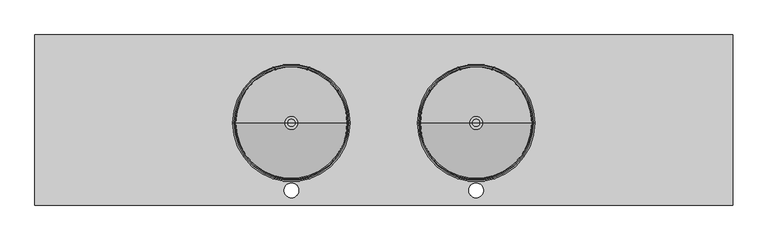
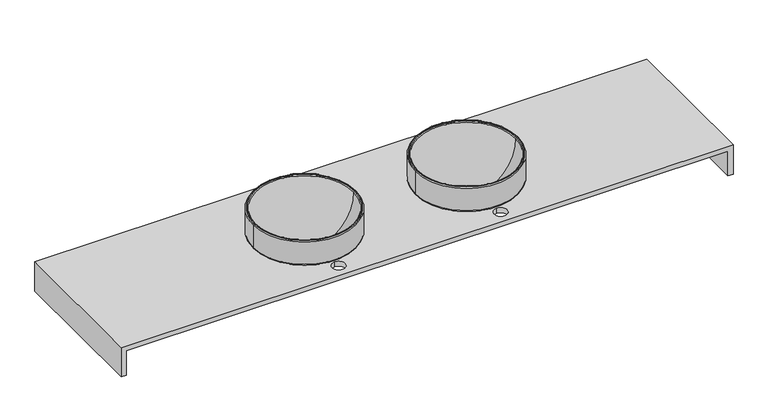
"""IFC4 building model written with IfcOpenShell, lengths in millimetres: flow terminal geometry, CUBIERTA BAÑO : CUBIERTA BAÑO 238CM."""

from ifc_helpers import new_model, si_unit, point, frame, origin, place, context, project, spatial, polyline, circle_curve, ellipse_curve, trimmed, source, transform, mapped, element, save
from ifc_brep_helpers import plane_surface, cylinder_surface, revolved_surface, advanced_brep


def flow_terminal_6d8cc725(model_context):
    return source(origin(), model_context, "Body", "AdvancedBrep", [
        advanced_brep(
        [(559.7003264, 280.0, 755.0254698), (554.6748566, 280.0, 750.0), (164.7257963, 280.0, 750.0), (159.7003264, 280.0, 755.0254698), (559.7003264, 280.0, 847.1369003), (159.7003264, 280.0, 847.1369003), (556.5666099, 280.0, 850.2706168), (162.834043, 280.0, 850.2706168), (552.8264261, 280.0, 850.2706168), (166.5742268, 280.0, 850.2706168), (549.9406449, 280.0, 847.3848356), (169.460008, 280.0, 847.3848356), (376.6370457, 280.0, 659.6971154), (342.7636072, 280.0, 659.6971154), (376.6370457, 280.0, 649.6794237), (342.7636072, 280.0, 649.6794237), (549.6748566, 280.0, 781.4886928), (169.7257963, 280.0, 781.4886928), (549.6748566, 280.0, 750.0), (169.7257963, 280.0, 750.0)],
        [
            (0, 1, circle_curve(frame((554.6748566, 280.0, 755.0254698), z_axis=(0.0, 1.0, 0.0), x_axis=(1.0, 0.0, 0.0)), 5.0254698)),
            (1, 2, circle_curve(frame((359.7003264, 280.0, 750.0), z_axis=(0.0, 0.0, 1.0), x_axis=(-1.0, 0.0, 0.0)), 194.9745302)),
            (2, 3, circle_curve(frame((164.7257963, 280.0, 755.0254698), z_axis=(0.0, 1.0, 0.0), x_axis=(-1.0, 0.0, 0.0)), 5.0254698)),
            (3, 0, circle_curve(frame((359.7003264, 280.0, 755.0254698), z_axis=(0.0, 0.0, -1.0), x_axis=(-1.0, 0.0, 0.0)), 200.0)),
            (2, 1, circle_curve(frame((359.7003264, 280.0, 750.0), z_axis=(0.0, 0.0, 1.0), x_axis=(-1.0, 0.0, 0.0)), 194.9745302)),
            (0, 3, circle_curve(frame((359.7003264, 280.0, 755.0254698), z_axis=(0.0, 0.0, -1.0), x_axis=(-1.0, 0.0, 0.0)), 200.0)),
            (4, 0),
            (3, 5),
            (5, 4, circle_curve(frame((359.7003264, 280.0, 847.1369003), z_axis=(0.0, 0.0, -1.0), x_axis=(-1.0, 0.0, 0.0)), 200.0)),
            (4, 5, circle_curve(frame((359.7003264, 280.0, 847.1369003), z_axis=(0.0, 0.0, -1.0), x_axis=(-1.0, 0.0, 0.0)), 200.0)),
            (6, 4, circle_curve(frame((556.5666099, 280.0, 847.1369003), z_axis=(0.0, 1.0, 0.0), x_axis=(1.0, 0.0, 0.0)), 3.1337165)),
            (5, 7, circle_curve(frame((162.834043, 280.0, 847.1369003), z_axis=(0.0, 1.0, 0.0), x_axis=(-1.0, 0.0, 0.0)), 3.1337165)),
            (7, 6, circle_curve(frame((359.7003264, 280.0, 850.2706168), z_axis=(0.0, 0.0, -1.0), x_axis=(-1.0, 0.0, 0.0)), 196.8662835)),
            (6, 7, circle_curve(frame((359.7003264, 280.0, 850.2706168), z_axis=(0.0, 0.0, -1.0), x_axis=(-1.0, 0.0, 0.0)), 196.8662835)),
            (8, 6),
            (7, 9),
            (9, 8, circle_curve(frame((359.7003264, 280.0, 850.2706168), z_axis=(0.0, 0.0, -1.0), x_axis=(-1.0, 0.0, 0.0)), 193.1260997)),
            (8, 9, circle_curve(frame((359.7003264, 280.0, 850.2706168), z_axis=(0.0, 0.0, -1.0), x_axis=(-1.0, 0.0, 0.0)), 193.1260997)),
            (10, 8, circle_curve(frame((552.8264261, 280.0, 847.3848356), z_axis=(0.0, 1.0, 0.0), x_axis=(1.0, 0.0, 0.0)), 2.8857812)),
            (9, 11, circle_curve(frame((166.5742268, 280.0, 847.3848356), z_axis=(0.0, 1.0, 0.0), x_axis=(-1.0, 0.0, 0.0)), 2.8857812)),
            (11, 10, circle_curve(frame((359.7003264, 280.0, 847.3848356), z_axis=(0.0, 0.0, -1.0), x_axis=(-1.0, 0.0, 0.0)), 190.2403184)),
            (10, 11, circle_curve(frame((359.7003264, 280.0, 847.3848356), z_axis=(0.0, 0.0, -1.0), x_axis=(-1.0, 0.0, 0.0)), 190.2403184)),
            (12, 10, circle_curve(frame((365.3724623, 280.0, 843.9531856), z_axis=(0.0, -1.0, 0.0), x_axis=(1.0, 0.0, 0.0)), 184.6000819)),
            (11, 13, circle_curve(frame((354.0281906, 280.0, 843.9531856), z_axis=(0.0, -1.0, 0.0), x_axis=(-1.0, 0.0, 0.0)), 184.6000819)),
            (13, 12, circle_curve(frame((359.7003264, 280.0, 659.6971154), z_axis=(0.0, 0.0, -1.0), x_axis=(-1.0, 0.0, 0.0)), 16.9367193)),
            (12, 13, circle_curve(frame((359.7003264, 280.0, 659.6971154), z_axis=(0.0, 0.0, -1.0), x_axis=(-1.0, 0.0, 0.0)), 16.9367193)),
            (14, 12),
            (13, 15),
            (15, 14, circle_curve(frame((359.7003264, 280.0, 649.6794237), z_axis=(0.0, 0.0, -1.0), x_axis=(-1.0, 0.0, 0.0)), 16.9367193)),
            (14, 15, circle_curve(frame((359.7003264, 280.0, 649.6794237), z_axis=(0.0, 0.0, -1.0), x_axis=(-1.0, 0.0, 0.0)), 16.9367193)),
            (16, 14, circle_curve(frame((365.3724623, 280.0, 843.9531856), z_axis=(0.0, 1.0, 0.0), x_axis=(1.0, 0.0, 0.0)), 194.6000653)),
            (15, 17, circle_curve(frame((354.0281906, 280.0, 843.9531856), z_axis=(0.0, 1.0, 0.0), x_axis=(-1.0, 0.0, 0.0)), 194.6000653)),
            (17, 16, circle_curve(frame((359.7003264, 280.0, 781.4886928), z_axis=(0.0, 0.0, -1.0), x_axis=(-1.0, 0.0, 0.0)), 189.9745302)),
            (16, 17, circle_curve(frame((359.7003264, 280.0, 781.4886928), z_axis=(0.0, 0.0, -1.0), x_axis=(-1.0, 0.0, 0.0)), 189.9745302)),
            (18, 16),
            (17, 19),
            (19, 18, circle_curve(frame((359.7003264, 280.0, 750.0), z_axis=(0.0, 0.0, -1.0), x_axis=(-1.0, 0.0, 0.0)), 189.9745302)),
            (18, 19, circle_curve(frame((359.7003264, 280.0, 750.0), z_axis=(0.0, 0.0, -1.0), x_axis=(-1.0, 0.0, 0.0)), 189.9745302)),
            (1, 18),
            (19, 2),
        ],
        [
            revolved_surface(trimmed(ellipse_curve(frame((164.7257963, 280.0, 755.0254698), z_axis=(0.0, 1.0, 0.0), x_axis=(-1.0, 0.0, 0.0)), 5.0254698, 5.0254698), [point((164.7257963, 280.0, 750.0))], [point((159.7003264, 280.0, 755.0254698))], True, "CARTESIAN"), (359.7003264, 280.0, 700.0), (0.0, 0.0, 1.0)),
            cylinder_surface(frame((359.7003264, 280.0, 700.0), z_axis=(0.0, 0.0, 1.0), x_axis=(-1.0, 0.0, 0.0)), 200.0),
            revolved_surface(trimmed(ellipse_curve(frame((162.834043, 280.0, 847.1369003), z_axis=(0.0, 1.0, 0.0), x_axis=(-1.0, 0.0, 0.0)), 3.1337165, 3.1337165), [point((159.7003264, 280.0, 847.1369003))], [point((162.834043, 280.0, 850.2706168))], True, "CARTESIAN"), (359.7003264, 280.0, 700.0), (0.0, 0.0, 1.0)),
            plane_surface(frame((359.7003264, 280.0, 850.2706168), z_axis=(0.0, 0.0, 1.0), x_axis=(-1.0, 0.0, 0.0))),
            revolved_surface(trimmed(ellipse_curve(frame((166.5742268, 280.0, 847.3848356), z_axis=(0.0, 1.0, 0.0), x_axis=(-1.0, 0.0, 0.0)), 2.8857812, 2.8857812), [point((166.5742268, 280.0, 850.2706168))], [point((169.460008, 280.0, 847.3848356))], True, "CARTESIAN"), (359.7003264, 280.0, 700.0), (0.0, 0.0, 1.0)),
            revolved_surface(trimmed(ellipse_curve(frame((354.0281906, 280.0, 843.9531856), z_axis=(0.0, -1.0, 0.0), x_axis=(-1.0, 0.0, 0.0)), 184.6000819, 184.6000819), [point((169.460008, 280.0, 847.3848356))], [point((342.7636072, 280.0, 659.6971154))], True, "CARTESIAN"), (359.7003264, 280.0, 700.0), (0.0, 0.0, 1.0)),
            revolved_surface(polyline([(342.7636071, 280.0, 659.6971154), (342.7636071, 280.0, 649.6794237)]), (359.7003264, 280.0, 700.0), (0.0, 0.0, 1.0)),
            revolved_surface(trimmed(ellipse_curve(frame((354.0281906, 280.0, 843.9531856), z_axis=(0.0, 1.0, 0.0), x_axis=(-1.0, 0.0, 0.0)), 194.6000653, 194.6000653), [point((342.7636072, 280.0, 649.6794237))], [point((169.7257963, 280.0, 781.4886928))], True, "CARTESIAN"), (359.7003264, 280.0, 700.0), (0.0, 0.0, 1.0)),
            revolved_surface(polyline([(169.7257962, 280.0, 781.4886928), (169.7257962, 280.0, 750.0)]), (359.7003264, 280.0, 700.0), (0.0, 0.0, 1.0)),
            plane_surface(frame((359.7003264, 280.0, 750.0), z_axis=(0.0, 0.0, -1.0), x_axis=(-1.0, 0.0, 0.0))),
        ],
        [
            (0, [[1, 2, 3, 4]]),
            (0, [[-3, 5, -1, 6]]),
            (1, [[7, -4, 8, 9]]),
            (1, [[-8, -6, -7, 10]]),
            (2, [[11, -9, 12, 13]]),
            (2, [[-12, -10, -11, 14]]),
            (3, [[15, -13, 16, 17]]),
            (3, [[-16, -14, -15, 18]]),
            (4, [[19, -17, 20, 21]]),
            (4, [[-20, -18, -19, 22]]),
            (5, [[23, -21, 24, 25]]),
            (5, [[-24, -22, -23, 26]]),
            (6, [[27, -25, 28, 29]]),
            (6, [[-28, -26, -27, 30]]),
            (7, [[31, -29, 32, 33]]),
            (7, [[-32, -30, -31, 34]]),
            (8, [[35, -33, 36, 37]]),
            (8, [[-36, -34, -35, 38]]),
            (9, [[39, -37, 40, -2]]),
            (9, [[-40, -38, -39, -5]]),
        ],
    ),
        advanced_brep(
        [(373.4382327, 280.0, 661.875), (381.7003264, 280.0, 661.875), (337.7003264, 280.0, 661.875), (345.9624201, 280.0, 661.875), (373.4382327, 280.0, 643.7247134), (345.9624201, 280.0, 643.7247134), (359.7003264, 280.0, 643.7247134), (376.7003264, 280.0, 640.0), (359.7003264, 280.0, 640.0), (342.7003264, 280.0, 640.0), (376.7003264, 280.0, 660.339751), (342.7003264, 280.0, 660.339751), (381.7003264, 280.0, 660.339751), (337.7003264, 280.0, 660.339751)],
        [
            (0, 1),
            (1, 2, circle_curve(frame((359.7003264, 280.0, 661.875), z_axis=(0.0, 0.0, 1.0), x_axis=(-1.0, 0.0, 0.0)), 22.0)),
            (2, 3),
            (3, 0, circle_curve(frame((359.7003264, 280.0, 661.875), z_axis=(0.0, 0.0, -1.0), x_axis=(-1.0, 0.0, 0.0)), 13.7379063)),
            (2, 1, circle_curve(frame((359.7003264, 280.0, 661.875), z_axis=(0.0, 0.0, 1.0), x_axis=(-1.0, 0.0, 0.0)), 22.0)),
            (0, 3, circle_curve(frame((359.7003264, 280.0, 661.875), z_axis=(0.0, 0.0, -1.0), x_axis=(-1.0, 0.0, 0.0)), 13.7379063)),
            (4, 0),
            (3, 5),
            (5, 4, circle_curve(frame((359.7003264, 280.0, 643.7247134), z_axis=(0.0, 0.0, -1.0), x_axis=(-1.0, 0.0, 0.0)), 13.7379063)),
            (4, 5, circle_curve(frame((359.7003264, 280.0, 643.7247134), z_axis=(0.0, 0.0, -1.0), x_axis=(-1.0, 0.0, 0.0)), 13.7379063)),
            (6, 4),
            (5, 6),
            (7, 8),
            (8, 9),
            (9, 7, circle_curve(frame((359.7003264, 280.0, 640.0), z_axis=(0.0, 0.0, -1.0), x_axis=(-1.0, 0.0, 0.0)), 17.0)),
            (7, 9, circle_curve(frame((359.7003264, 280.0, 640.0), z_axis=(0.0, 0.0, -1.0), x_axis=(-1.0, 0.0, 0.0)), 17.0)),
            (10, 7),
            (9, 11),
            (11, 10, circle_curve(frame((359.7003264, 280.0, 660.339751), z_axis=(0.0, 0.0, -1.0), x_axis=(-1.0, 0.0, 0.0)), 17.0)),
            (10, 11, circle_curve(frame((359.7003264, 280.0, 660.339751), z_axis=(0.0, 0.0, -1.0), x_axis=(-1.0, 0.0, 0.0)), 17.0)),
            (12, 10),
            (11, 13),
            (13, 12, circle_curve(frame((359.7003264, 280.0, 660.339751), z_axis=(0.0, 0.0, -1.0), x_axis=(-1.0, 0.0, 0.0)), 22.0)),
            (12, 13, circle_curve(frame((359.7003264, 280.0, 660.339751), z_axis=(0.0, 0.0, -1.0), x_axis=(-1.0, 0.0, 0.0)), 22.0)),
            (1, 12),
            (13, 2),
        ],
        [
            plane_surface(frame((359.7003264, 280.0, 661.875), z_axis=(0.0, 0.0, 1.0), x_axis=(-1.0, 0.0, 0.0))),
            revolved_surface(polyline([(345.9624201, 280.0, 661.875), (345.9624201, 280.0, 643.7247134)]), (359.7003264, 280.0, 639.8833255), (0.0, 0.0, 1.0)),
            plane_surface(frame((359.7003264, 280.0, 643.7247134), z_axis=(0.0, 0.0, 1.0), x_axis=(-1.0, 0.0, 0.0))),
            plane_surface(frame((359.7003264, 280.0, 640.0), z_axis=(0.0, 0.0, -1.0), x_axis=(-1.0, 0.0, 0.0))),
            cylinder_surface(frame((359.7003264, 280.0, 639.8833255), z_axis=(0.0, 0.0, 1.0), x_axis=(-1.0, 0.0, 0.0)), 17.0),
            plane_surface(frame((359.7003264, 280.0, 660.339751), z_axis=(0.0, 0.0, -1.0), x_axis=(-1.0, 0.0, 0.0))),
            cylinder_surface(frame((359.7003264, 280.0, 639.8833255), z_axis=(0.0, 0.0, 1.0), x_axis=(-1.0, 0.0, 0.0)), 22.0),
        ],
        [
            (0, [[1, 2, 3, 4]]),
            (0, [[-3, 5, -1, 6]]),
            (1, [[7, -4, 8, 9]]),
            (1, [[-8, -6, -7, 10]]),
            (2, [[11, -9, 12]]),
            (2, [[-12, -10, -11]]),
            (3, [[13, 14, 15]]),
            (3, [[-14, -13, 16]]),
            (4, [[17, -15, 18, 19]]),
            (4, [[-18, -16, -17, 20]]),
            (5, [[21, -19, 22, 23]]),
            (5, [[-22, -20, -21, 24]]),
            (6, [[25, -23, 26, -2]]),
            (6, [[-26, -24, -25, -5]]),
        ],
    ),
        advanced_brep(
        [(-70.2996736, 280.0, 755.0254698), (-75.3251434, 280.0, 750.0), (-465.2742037, 280.0, 750.0), (-470.2996736, 280.0, 755.0254698), (-70.2996736, 280.0, 847.1369003), (-470.2996736, 280.0, 847.1369003), (-73.4333901, 280.0, 850.2706168), (-467.165957, 280.0, 850.2706168), (-77.1735739, 280.0, 850.2706168), (-463.4257732, 280.0, 850.2706168), (-80.0593551, 280.0, 847.3848356), (-460.539992, 280.0, 847.3848356), (-253.3629543, 280.0, 659.6971154), (-287.2363928, 280.0, 659.6971154), (-253.3629543, 280.0, 649.6794237), (-287.2363928, 280.0, 649.6794237), (-80.3251434, 280.0, 781.4886928), (-460.2742037, 280.0, 781.4886928), (-80.3251434, 280.0, 750.0), (-460.2742037, 280.0, 750.0)],
        [
            (0, 1, circle_curve(frame((-75.3251434, 280.0, 755.0254698), z_axis=(0.0, 1.0, 0.0), x_axis=(1.0, 0.0, 0.0)), 5.0254698)),
            (1, 2, circle_curve(frame((-270.2996736, 280.0, 750.0), z_axis=(0.0, 0.0, 1.0), x_axis=(-1.0, 0.0, 0.0)), 194.9745302)),
            (2, 3, circle_curve(frame((-465.2742037, 280.0, 755.0254698), z_axis=(0.0, 1.0, 0.0), x_axis=(-1.0, 0.0, 0.0)), 5.0254698)),
            (3, 0, circle_curve(frame((-270.2996736, 280.0, 755.0254698), z_axis=(0.0, 0.0, -1.0), x_axis=(-1.0, 0.0, 0.0)), 200.0)),
            (2, 1, circle_curve(frame((-270.2996736, 280.0, 750.0), z_axis=(0.0, 0.0, 1.0), x_axis=(-1.0, 0.0, 0.0)), 194.9745302)),
            (0, 3, circle_curve(frame((-270.2996736, 280.0, 755.0254698), z_axis=(0.0, 0.0, -1.0), x_axis=(-1.0, 0.0, 0.0)), 200.0)),
            (4, 0),
            (3, 5),
            (5, 4, circle_curve(frame((-270.2996736, 280.0, 847.1369003), z_axis=(0.0, 0.0, -1.0), x_axis=(-1.0, 0.0, 0.0)), 200.0)),
            (4, 5, circle_curve(frame((-270.2996736, 280.0, 847.1369003), z_axis=(0.0, 0.0, -1.0), x_axis=(-1.0, 0.0, 0.0)), 200.0)),
            (6, 4, circle_curve(frame((-73.4333901, 280.0, 847.1369003), z_axis=(0.0, 1.0, 0.0), x_axis=(1.0, 0.0, 0.0)), 3.1337165)),
            (5, 7, circle_curve(frame((-467.165957, 280.0, 847.1369003), z_axis=(0.0, 1.0, 0.0), x_axis=(-1.0, 0.0, 0.0)), 3.1337165)),
            (7, 6, circle_curve(frame((-270.2996736, 280.0, 850.2706168), z_axis=(0.0, 0.0, -1.0), x_axis=(-1.0, 0.0, 0.0)), 196.8662835)),
            (6, 7, circle_curve(frame((-270.2996736, 280.0, 850.2706168), z_axis=(0.0, 0.0, -1.0), x_axis=(-1.0, 0.0, 0.0)), 196.8662835)),
            (8, 6),
            (7, 9),
            (9, 8, circle_curve(frame((-270.2996736, 280.0, 850.2706168), z_axis=(0.0, 0.0, -1.0), x_axis=(-1.0, 0.0, 0.0)), 193.1260997)),
            (8, 9, circle_curve(frame((-270.2996736, 280.0, 850.2706168), z_axis=(0.0, 0.0, -1.0), x_axis=(-1.0, 0.0, 0.0)), 193.1260997)),
            (10, 8, circle_curve(frame((-77.1735739, 280.0, 847.3848356), z_axis=(0.0, 1.0, 0.0), x_axis=(1.0, 0.0, 0.0)), 2.8857812)),
            (9, 11, circle_curve(frame((-463.4257732, 280.0, 847.3848356), z_axis=(0.0, 1.0, 0.0), x_axis=(-1.0, 0.0, 0.0)), 2.8857812)),
            (11, 10, circle_curve(frame((-270.2996736, 280.0, 847.3848356), z_axis=(0.0, 0.0, -1.0), x_axis=(-1.0, 0.0, 0.0)), 190.2403184)),
            (10, 11, circle_curve(frame((-270.2996736, 280.0, 847.3848356), z_axis=(0.0, 0.0, -1.0), x_axis=(-1.0, 0.0, 0.0)), 190.2403184)),
            (12, 10, circle_curve(frame((-264.6275377, 280.0, 843.9531856), z_axis=(0.0, -1.0, 0.0), x_axis=(1.0, 0.0, 0.0)), 184.6000819)),
            (11, 13, circle_curve(frame((-275.9718094, 280.0, 843.9531856), z_axis=(0.0, -1.0, 0.0), x_axis=(-1.0, 0.0, 0.0)), 184.6000819)),
            (13, 12, circle_curve(frame((-270.2996736, 280.0, 659.6971154), z_axis=(0.0, 0.0, -1.0), x_axis=(-1.0, 0.0, 0.0)), 16.9367193)),
            (12, 13, circle_curve(frame((-270.2996736, 280.0, 659.6971154), z_axis=(0.0, 0.0, -1.0), x_axis=(-1.0, 0.0, 0.0)), 16.9367193)),
            (14, 12),
            (13, 15),
            (15, 14, circle_curve(frame((-270.2996736, 280.0, 649.6794237), z_axis=(0.0, 0.0, -1.0), x_axis=(-1.0, 0.0, 0.0)), 16.9367193)),
            (14, 15, circle_curve(frame((-270.2996736, 280.0, 649.6794237), z_axis=(0.0, 0.0, -1.0), x_axis=(-1.0, 0.0, 0.0)), 16.9367193)),
            (16, 14, circle_curve(frame((-264.6275377, 280.0, 843.9531856), z_axis=(0.0, 1.0, 0.0), x_axis=(1.0, 0.0, 0.0)), 194.6000653)),
            (15, 17, circle_curve(frame((-275.9718094, 280.0, 843.9531856), z_axis=(0.0, 1.0, 0.0), x_axis=(-1.0, 0.0, 0.0)), 194.6000653)),
            (17, 16, circle_curve(frame((-270.2996736, 280.0, 781.4886928), z_axis=(0.0, 0.0, -1.0), x_axis=(-1.0, 0.0, 0.0)), 189.9745302)),
            (16, 17, circle_curve(frame((-270.2996736, 280.0, 781.4886928), z_axis=(0.0, 0.0, -1.0), x_axis=(-1.0, 0.0, 0.0)), 189.9745302)),
            (18, 16),
            (17, 19),
            (19, 18, circle_curve(frame((-270.2996736, 280.0, 750.0), z_axis=(0.0, 0.0, -1.0), x_axis=(-1.0, 0.0, 0.0)), 189.9745302)),
            (18, 19, circle_curve(frame((-270.2996736, 280.0, 750.0), z_axis=(0.0, 0.0, -1.0), x_axis=(-1.0, 0.0, 0.0)), 189.9745302)),
            (1, 18),
            (19, 2),
        ],
        [
            revolved_surface(trimmed(ellipse_curve(frame((-465.2742037, 280.0, 755.0254698), z_axis=(0.0, 1.0, 0.0), x_axis=(-1.0, 0.0, 0.0)), 5.0254698, 5.0254698), [point((-465.2742037, 280.0, 750.0))], [point((-470.2996736, 280.0, 755.0254698))], True, "CARTESIAN"), (-270.2996736, 280.0, 700.0), (0.0, 0.0, 1.0)),
            cylinder_surface(frame((-270.2996736, 280.0, 700.0), z_axis=(0.0, 0.0, 1.0), x_axis=(-1.0, 0.0, 0.0)), 200.0),
            revolved_surface(trimmed(ellipse_curve(frame((-467.165957, 280.0, 847.1369003), z_axis=(0.0, 1.0, 0.0), x_axis=(-1.0, 0.0, 0.0)), 3.1337165, 3.1337165), [point((-470.2996736, 280.0, 847.1369003))], [point((-467.165957, 280.0, 850.2706168))], True, "CARTESIAN"), (-270.2996736, 280.0, 700.0), (0.0, 0.0, 1.0)),
            plane_surface(frame((-270.2996736, 280.0, 850.2706168), z_axis=(0.0, 0.0, 1.0), x_axis=(-1.0, 0.0, 0.0))),
            revolved_surface(trimmed(ellipse_curve(frame((-463.4257732, 280.0, 847.3848356), z_axis=(0.0, 1.0, 0.0), x_axis=(-1.0, 0.0, 0.0)), 2.8857812, 2.8857812), [point((-463.4257732, 280.0, 850.2706168))], [point((-460.539992, 280.0, 847.3848356))], True, "CARTESIAN"), (-270.2996736, 280.0, 700.0), (0.0, 0.0, 1.0)),
            revolved_surface(trimmed(ellipse_curve(frame((-275.9718094, 280.0, 843.9531856), z_axis=(0.0, -1.0, 0.0), x_axis=(-1.0, 0.0, 0.0)), 184.6000819, 184.6000819), [point((-460.539992, 280.0, 847.3848356))], [point((-287.2363928, 280.0, 659.6971154))], True, "CARTESIAN"), (-270.2996736, 280.0, 700.0), (0.0, 0.0, 1.0)),
            revolved_surface(polyline([(-287.2363929, 280.0, 659.6971154), (-287.2363929, 280.0, 649.6794237)]), (-270.2996736, 280.0, 700.0), (0.0, 0.0, 1.0)),
            revolved_surface(trimmed(ellipse_curve(frame((-275.9718094, 280.0, 843.9531856), z_axis=(0.0, 1.0, 0.0), x_axis=(-1.0, 0.0, 0.0)), 194.6000653, 194.6000653), [point((-287.2363928, 280.0, 649.6794237))], [point((-460.2742037, 280.0, 781.4886928))], True, "CARTESIAN"), (-270.2996736, 280.0, 700.0), (0.0, 0.0, 1.0)),
            revolved_surface(polyline([(-460.2742038, 280.0, 781.4886928), (-460.2742038, 280.0, 750.0)]), (-270.2996736, 280.0, 700.0), (0.0, 0.0, 1.0)),
            plane_surface(frame((-270.2996736, 280.0, 750.0), z_axis=(0.0, 0.0, -1.0), x_axis=(-1.0, 0.0, 0.0))),
        ],
        [
            (0, [[1, 2, 3, 4]]),
            (0, [[-3, 5, -1, 6]]),
            (1, [[7, -4, 8, 9]]),
            (1, [[-8, -6, -7, 10]]),
            (2, [[11, -9, 12, 13]]),
            (2, [[-12, -10, -11, 14]]),
            (3, [[15, -13, 16, 17]]),
            (3, [[-16, -14, -15, 18]]),
            (4, [[19, -17, 20, 21]]),
            (4, [[-20, -18, -19, 22]]),
            (5, [[23, -21, 24, 25]]),
            (5, [[-24, -22, -23, 26]]),
            (6, [[27, -25, 28, 29]]),
            (6, [[-28, -26, -27, 30]]),
            (7, [[31, -29, 32, 33]]),
            (7, [[-32, -30, -31, 34]]),
            (8, [[35, -33, 36, 37]]),
            (8, [[-36, -34, -35, 38]]),
            (9, [[39, -37, 40, -2]]),
            (9, [[-40, -38, -39, -5]]),
        ],
    ),
        advanced_brep(
        [(-256.5617673, 280.0, 661.875), (-248.2996736, 280.0, 661.875), (-292.2996736, 280.0, 661.875), (-284.0375799, 280.0, 661.875), (-256.5617673, 280.0, 643.7247134), (-284.0375799, 280.0, 643.7247134), (-270.2996736, 280.0, 643.7247134), (-253.2996736, 280.0, 640.0), (-270.2996736, 280.0, 640.0), (-287.2996736, 280.0, 640.0), (-253.2996736, 280.0, 660.339751), (-287.2996736, 280.0, 660.339751), (-248.2996736, 280.0, 660.339751), (-292.2996736, 280.0, 660.339751)],
        [
            (0, 1),
            (1, 2, circle_curve(frame((-270.2996736, 280.0, 661.875), z_axis=(0.0, 0.0, 1.0), x_axis=(-1.0, 0.0, 0.0)), 22.0)),
            (2, 3),
            (3, 0, circle_curve(frame((-270.2996736, 280.0, 661.875), z_axis=(0.0, 0.0, -1.0), x_axis=(-1.0, 0.0, 0.0)), 13.7379063)),
            (2, 1, circle_curve(frame((-270.2996736, 280.0, 661.875), z_axis=(0.0, 0.0, 1.0), x_axis=(-1.0, 0.0, 0.0)), 22.0)),
            (0, 3, circle_curve(frame((-270.2996736, 280.0, 661.875), z_axis=(0.0, 0.0, -1.0), x_axis=(-1.0, 0.0, 0.0)), 13.7379063)),
            (4, 0),
            (3, 5),
            (5, 4, circle_curve(frame((-270.2996736, 280.0, 643.7247134), z_axis=(0.0, 0.0, -1.0), x_axis=(-1.0, 0.0, 0.0)), 13.7379063)),
            (4, 5, circle_curve(frame((-270.2996736, 280.0, 643.7247134), z_axis=(0.0, 0.0, -1.0), x_axis=(-1.0, 0.0, 0.0)), 13.7379063)),
            (6, 4),
            (5, 6),
            (7, 8),
            (8, 9),
            (9, 7, circle_curve(frame((-270.2996736, 280.0, 640.0), z_axis=(0.0, 0.0, -1.0), x_axis=(-1.0, 0.0, 0.0)), 17.0)),
            (7, 9, circle_curve(frame((-270.2996736, 280.0, 640.0), z_axis=(0.0, 0.0, -1.0), x_axis=(-1.0, 0.0, 0.0)), 17.0)),
            (10, 7),
            (9, 11),
            (11, 10, circle_curve(frame((-270.2996736, 280.0, 660.339751), z_axis=(0.0, 0.0, -1.0), x_axis=(-1.0, 0.0, 0.0)), 17.0)),
            (10, 11, circle_curve(frame((-270.2996736, 280.0, 660.339751), z_axis=(0.0, 0.0, -1.0), x_axis=(-1.0, 0.0, 0.0)), 17.0)),
            (12, 10),
            (11, 13),
            (13, 12, circle_curve(frame((-270.2996736, 280.0, 660.339751), z_axis=(0.0, 0.0, -1.0), x_axis=(-1.0, 0.0, 0.0)), 22.0)),
            (12, 13, circle_curve(frame((-270.2996736, 280.0, 660.339751), z_axis=(0.0, 0.0, -1.0), x_axis=(-1.0, 0.0, 0.0)), 22.0)),
            (1, 12),
            (13, 2),
        ],
        [
            plane_surface(frame((-270.2996736, 280.0, 661.875), z_axis=(0.0, 0.0, 1.0), x_axis=(-1.0, 0.0, 0.0))),
            revolved_surface(polyline([(-284.0375799, 280.0, 661.875), (-284.0375799, 280.0, 643.7247134)]), (-270.2996736, 280.0, 639.8833255), (0.0, 0.0, 1.0)),
            plane_surface(frame((-270.2996736, 280.0, 643.7247134), z_axis=(0.0, 0.0, 1.0), x_axis=(-1.0, 0.0, 0.0))),
            plane_surface(frame((-270.2996736, 280.0, 640.0), z_axis=(0.0, 0.0, -1.0), x_axis=(-1.0, 0.0, 0.0))),
            cylinder_surface(frame((-270.2996736, 280.0, 639.8833255), z_axis=(0.0, 0.0, 1.0), x_axis=(-1.0, 0.0, 0.0)), 17.0),
            plane_surface(frame((-270.2996736, 280.0, 660.339751), z_axis=(0.0, 0.0, -1.0), x_axis=(-1.0, 0.0, 0.0))),
            cylinder_surface(frame((-270.2996736, 280.0, 639.8833255), z_axis=(0.0, 0.0, 1.0), x_axis=(-1.0, 0.0, 0.0)), 22.0),
        ],
        [
            (0, [[1, 2, 3, 4]]),
            (0, [[-3, 5, -1, 6]]),
            (1, [[7, -4, 8, 9]]),
            (1, [[-8, -6, -7, 10]]),
            (2, [[11, -9, 12]]),
            (2, [[-12, -10, -11]]),
            (3, [[13, 14, 15]]),
            (3, [[-14, -13, 16]]),
            (4, [[17, -15, 18, 19]]),
            (4, [[-18, -16, -17, 20]]),
            (5, [[21, -19, 22, 23]]),
            (5, [[-22, -20, -21, 24]]),
            (6, [[25, -23, 26, -2]]),
            (6, [[-26, -24, -25, -5]]),
        ],
    ),
        advanced_brep(
        [(-1125.2996736, 0.0, 730.2844037), (-1125.2996736, 560.0, 730.2844037), (1214.7003264, 560.0, 730.2844037), (1214.7003264, 0.0, 730.2844037), (-270.2996736, 25.0, 730.2844037), (-270.2996736, 75.0, 730.2844037), (-270.2996736, 100.0, 730.2844037), (-270.2996736, 460.0, 730.2844037), (359.7003264, 25.0, 730.2844037), (359.7003264, 75.0, 730.2844037), (359.7003264, 100.0, 730.2844037), (359.7003264, 460.0, 730.2844037), (1234.7003264, 0.0, 750.0), (1234.7003264, 580.0, 750.0), (-1145.2996736, 580.0, 750.0), (-1145.2996736, 0.0, 750.0), (-270.2996736, 25.0, 750.0), (-270.2996736, 75.0, 750.0), (-270.2996736, 100.0, 750.0), (-270.2996736, 460.0, 750.0), (359.7003264, 25.0, 750.0), (359.7003264, 75.0, 750.0), (359.7003264, 100.0, 750.0), (359.7003264, 460.0, 750.0), (-1145.2996736, 0.0, 630.0), (-1125.2996736, 0.0, 630.0), (1214.7003264, 0.0, 630.0), (1234.7003264, 0.0, 630.0), (-1145.2996736, 580.0, 630.0), (1234.7003264, 580.0, 630.0), (1214.7003264, 560.0, 630.0), (-1125.2996736, 560.0, 630.0)],
        [
            (0, 1),
            (1, 2),
            (2, 3),
            (3, 0),
            (4, 5, circle_curve(frame((-270.2996736, 50.0, 730.2844037), z_axis=(0.0, 0.0, 1.0), x_axis=(0.0, 1.0, 0.0)), 25.0)),
            (5, 4, circle_curve(frame((-270.2996736, 50.0, 730.2844037), z_axis=(0.0, 0.0, 1.0), x_axis=(0.0, 1.0, 0.0)), 25.0)),
            (6, 7, circle_curve(frame((-270.2996736, 280.0, 730.2844037), z_axis=(0.0, 0.0, 1.0), x_axis=(0.0, 1.0, 0.0)), 180.0)),
            (7, 6, circle_curve(frame((-270.2996736, 280.0, 730.2844037), z_axis=(0.0, 0.0, 1.0), x_axis=(0.0, 1.0, 0.0)), 180.0)),
            (8, 9, circle_curve(frame((359.7003264, 50.0, 730.2844037), z_axis=(0.0, 0.0, 1.0), x_axis=(0.0, 1.0, 0.0)), 25.0)),
            (9, 8, circle_curve(frame((359.7003264, 50.0, 730.2844037), z_axis=(0.0, 0.0, 1.0), x_axis=(0.0, 1.0, 0.0)), 25.0)),
            (10, 11, circle_curve(frame((359.7003264, 280.0, 730.2844037), z_axis=(0.0, 0.0, 1.0), x_axis=(0.0, 1.0, 0.0)), 180.0)),
            (11, 10, circle_curve(frame((359.7003264, 280.0, 730.2844037), z_axis=(0.0, 0.0, 1.0), x_axis=(0.0, 1.0, 0.0)), 180.0)),
            (12, 13),
            (13, 14),
            (14, 15),
            (15, 12),
            (16, 17, circle_curve(frame((-270.2996736, 50.0, 750.0), z_axis=(0.0, 0.0, -1.0), x_axis=(0.0, 1.0, 0.0)), 25.0)),
            (17, 16, circle_curve(frame((-270.2996736, 50.0, 750.0), z_axis=(0.0, 0.0, -1.0), x_axis=(0.0, 1.0, 0.0)), 25.0)),
            (18, 19, circle_curve(frame((-270.2996736, 280.0, 750.0), z_axis=(0.0, 0.0, -1.0), x_axis=(0.0, 1.0, 0.0)), 180.0)),
            (19, 18, circle_curve(frame((-270.2996736, 280.0, 750.0), z_axis=(0.0, 0.0, -1.0), x_axis=(0.0, 1.0, 0.0)), 180.0)),
            (20, 21, circle_curve(frame((359.7003264, 50.0, 750.0), z_axis=(0.0, 0.0, -1.0), x_axis=(0.0, 1.0, 0.0)), 25.0)),
            (21, 20, circle_curve(frame((359.7003264, 50.0, 750.0), z_axis=(0.0, 0.0, -1.0), x_axis=(0.0, 1.0, 0.0)), 25.0)),
            (22, 23, circle_curve(frame((359.7003264, 280.0, 750.0), z_axis=(0.0, 0.0, -1.0), x_axis=(0.0, 1.0, 0.0)), 180.0)),
            (23, 22, circle_curve(frame((359.7003264, 280.0, 750.0), z_axis=(0.0, 0.0, -1.0), x_axis=(0.0, 1.0, 0.0)), 180.0)),
            (15, 24),
            (24, 25),
            (25, 0),
            (3, 26),
            (26, 27),
            (27, 12),
            (14, 28),
            (28, 24),
            (13, 29),
            (29, 28),
            (27, 29),
            (4, 16),
            (17, 5),
            (6, 18),
            (19, 7),
            (8, 20),
            (21, 9),
            (10, 22),
            (23, 11),
            (26, 30),
            (30, 31),
            (31, 25),
            (2, 30),
            (1, 31),
        ],
        [
            plane_surface(frame((-1145.2996736, 0.0, 730.2844037), z_axis=(0.0, 0.0, -1.0), x_axis=(1.0, 0.0, 0.0))),
            plane_surface(frame((-1145.2996736, 0.0, 750.0), z_axis=(0.0, 0.0, 1.0), x_axis=(-1.0, 0.0, 0.0))),
            plane_surface(frame((1234.7003264, 0.0, 750.0), z_axis=(0.0, -1.0, 0.0), x_axis=(0.0, 0.0, -1.0))),
            plane_surface(frame((-1145.2996736, 0.0, 750.0), z_axis=(-1.0, 0.0, 0.0), x_axis=(0.0, 0.0, -1.0))),
            plane_surface(frame((-1145.2996736, 580.0, 750.0), z_axis=(0.0, 1.0, 0.0), x_axis=(0.0, 0.0, -1.0))),
            plane_surface(frame((1234.7003264, 580.0, 750.0), z_axis=(1.0, 0.0, 0.0), x_axis=(0.0, 0.0, -1.0))),
            revolved_surface(polyline([(-270.2996736, 75.0, 730.2844037), (-270.2996736, 75.0, 750.0)]), (-270.2996736, 50.0, 750.0), (0.0, 0.0, -1.0)),
            revolved_surface(polyline([(-270.2996736, 460.0, 730.2844037), (-270.2996736, 460.0, 750.0)]), (-270.2996736, 280.0, 750.0), (0.0, 0.0, -1.0)),
            revolved_surface(polyline([(359.7003264, 75.0, 730.2844037), (359.7003264, 75.0, 750.0)]), (359.7003264, 50.0, 750.0), (0.0, 0.0, -1.0)),
            revolved_surface(polyline([(359.7003264, 460.0, 730.2844037), (359.7003264, 460.0, 750.0)]), (359.7003264, 280.0, 750.0), (0.0, 0.0, -1.0)),
            plane_surface(frame((-1145.2996736, 580.0, 630.0), z_axis=(0.0, 0.0, -1.0), x_axis=(-1.0, 0.0, 0.0))),
            plane_surface(frame((1214.7003264, 0.0, 730.2844037), z_axis=(-1.0, 0.0, 0.0), x_axis=(0.0, 0.0, -1.0))),
            plane_surface(frame((1214.7003264, 560.0, 730.2844037), z_axis=(0.0, -1.0, 0.0), x_axis=(0.0, 0.0, -1.0))),
            plane_surface(frame((-1125.2996736, 560.0, 730.2844037), z_axis=(1.0, 0.0, 0.0), x_axis=(0.0, 0.0, -1.0))),
        ],
        [
            (0, [[1, 2, 3, 4], [5, 6], [7, 8], [9, 10], [11, 12]]),
            (1, [[13, 14, 15, 16], [17, 18], [19, 20], [21, 22], [23, 24]]),
            (2, [[25, 26, 27, -4, 28, 29, 30, -16]]),
            (3, [[31, 32, -25, -15]]),
            (4, [[33, 34, -31, -14]]),
            (5, [[35, -33, -13, -30]]),
            (6, [[36, -18, 37, -5]]),
            (6, [[-37, -17, -36, -6]]),
            (7, [[38, -20, 39, -7]]),
            (7, [[-39, -19, -38, -8]]),
            (8, [[40, -22, 41, -9]]),
            (8, [[-41, -21, -40, -10]]),
            (9, [[42, -24, 43, -11]]),
            (9, [[-43, -23, -42, -12]]),
            (10, [[-34, -35, -29, 44, 45, 46, -26, -32]]),
            (11, [[-28, -3, 47, -44]]),
            (12, [[-47, -2, 48, -45]]),
            (13, [[-48, -1, -27, -46]]),
        ],
    ),
    ])


if __name__ == "__main__":
    model = new_model("IFC4")
    model_context = context("Model", 3, world=origin())
    ifc_project = project(units=[si_unit("LENGTHUNIT", "METRE", prefix="MILLI")], contexts=[model_context])
    site = spatial("IfcSite", under=ifc_project)
    building = spatial("IfcBuilding", under=site)
    placement = place(None, origin())
    flow_terminal_shape = flow_terminal_6d8cc725(model_context)
    element("IfcFlowTerminal", 1, ObjectType="CUBIERTA BAÑO : CUBIERTA BAÑO 238CM", at=placement, inside=building, context=model_context, shape_type="MappedRepresentation", body=[
        mapped(flow_terminal_shape, transform((0.0, 0.0, 0.0), x_axis=(1.0, 0.0, 0.0), y_axis=(0.0, 1.0, 0.0), z_axis=(0.0, 0.0, 1.0))),
    ])
    save(model, "model.ifc")
